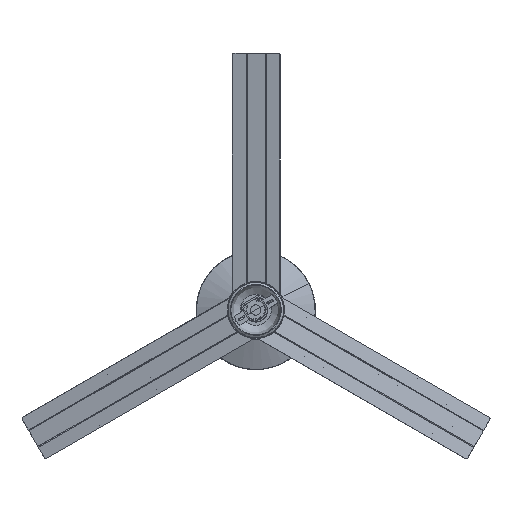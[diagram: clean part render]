
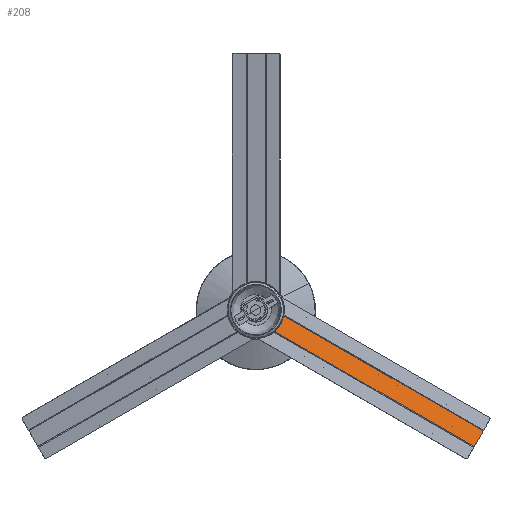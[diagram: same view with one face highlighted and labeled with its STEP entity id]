
A CAD part, top view. The second image highlights one B-rep face of the part: STEP entity #208.
In plain terms, the highlighted planar face has unit normal (0.113, 0.195, 0.974).
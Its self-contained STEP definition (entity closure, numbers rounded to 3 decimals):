
#99=FACE_BOUND('',#1970,.T.);
#208=ADVANCED_FACE('',(#1088,#99),#15163,.T.);
#1088=FACE_OUTER_BOUND('',#1969,.T.);
#1969=EDGE_LOOP('',(#3128,#3129,#3130,#3131));
#1970=EDGE_LOOP('',(#3132,#3133));
#3128=ORIENTED_EDGE('',*,*,#7876,.T.);
#3129=ORIENTED_EDGE('',*,*,#7877,.F.);
#3130=ORIENTED_EDGE('',*,*,#7892,.T.);
#3131=ORIENTED_EDGE('',*,*,#7878,.F.);
#3132=ORIENTED_EDGE('',*,*,#7831,.T.);
#3133=ORIENTED_EDGE('',*,*,#7833,.T.);
#7831=EDGE_CURVE('',#13310,#13309,#10228,.T.);
#7833=EDGE_CURVE('',#13309,#13310,#10229,.T.);
#7876=EDGE_CURVE('',#13254,#13239,#10235,.T.);
#7877=EDGE_CURVE('',#13237,#13239,#11549,.T.);
#7878=EDGE_CURVE('',#13254,#13259,#11550,.T.);
#7892=EDGE_CURVE('',#13237,#13259,#11562,.T.);
#10228=TRIMMED_CURVE($,#10754,(#19420),(#19421),.T.,.CARTESIAN.);
#10229=TRIMMED_CURVE($,#10755,(#19425),(#19426),.T.,.CARTESIAN.);
#10235=TRIMMED_CURVE($,#10761,(#19533),(#19534),.T.,.CARTESIAN.);
#10754=CIRCLE('',#15817,2.6);
#10755=CIRCLE('',#15818,2.6);
#10761=CIRCLE('',#15824,56.);
#11549=B_SPLINE_CURVE_WITH_KNOTS('',1,(#19535,#19536),.UNSPECIFIED.,.F.,
 .F.,(2,2),(-609.372,0.),.UNSPECIFIED.);
#11550=B_SPLINE_CURVE_WITH_KNOTS('',1,(#19537,#19538),.UNSPECIFIED.,.F.,
 .F.,(2,2),(-609.414,0.),.UNSPECIFIED.);
#11562=B_SPLINE_CURVE_WITH_KNOTS('',1,(#19567,#19568),.UNSPECIFIED.,.F.,
 .F.,(2,2),(-48.,0.),.UNSPECIFIED.);
#13237=VERTEX_POINT('',#19047);
#13239=VERTEX_POINT('',#19049);
#13254=VERTEX_POINT('',#19064);
#13259=VERTEX_POINT('',#19069);
#13309=VERTEX_POINT('',#19119);
#13310=VERTEX_POINT('',#19120);
#15163=PLANE('',#15797);
#15797=AXIS2_PLACEMENT_3D('',#19022,#17145,$);
#15817=AXIS2_PLACEMENT_3D($,#19419,#17173,#17174);
#15818=AXIS2_PLACEMENT_3D($,#19424,#17175,#17176);
#15824=AXIS2_PLACEMENT_3D($,#19532,#17187,#17188);
#17145=DIRECTION('',(0.112,0.195,0.974));
#17173=DIRECTION('',(-0.112,-0.195,-0.974));
#17174=DIRECTION('',(0.487,0.844,-0.225));
#17175=DIRECTION('',(-0.112,-0.195,-0.974));
#17176=DIRECTION('',(-0.487,-0.844,0.225));
#17187=DIRECTION('',(-0.112,-0.195,-0.974));
#17188=DIRECTION('',(0.991,-0.089,-0.097));
#19022=CARTESIAN_POINT('',(17262.869,-2090.762,72.907));
#19047=CARTESIAN_POINT('',(17212.397,-2056.06,71.795));
#19049=CARTESIAN_POINT('',(16684.665,-1751.374,71.795));
#19064=CARTESIAN_POINT('',(16708.014,-1710.849,60.998));
#19069=CARTESIAN_POINT('',(17235.782,-2015.556,60.998));
#19119=CARTESIAN_POINT('',(16709.258,-1741.544,66.991));
#19120=CARTESIAN_POINT('',(16711.791,-1737.156,65.821));
#19419=CARTESIAN_POINT('',(16710.524,-1739.35,66.406));
#19420=CARTESIAN_POINT('',(16711.791,-1737.156,65.821));
#19421=CARTESIAN_POINT('',(16709.258,-1741.544,66.991));
#19424=CARTESIAN_POINT('',(16710.524,-1739.35,66.406));
#19425=CARTESIAN_POINT('',(16709.258,-1741.544,66.991));
#19426=CARTESIAN_POINT('',(16711.791,-1737.156,65.821));
#19532=CARTESIAN_POINT('',(16652.501,-1705.85,66.406));
#19533=CARTESIAN_POINT('',(16708.014,-1710.849,60.998));
#19534=CARTESIAN_POINT('',(16684.665,-1751.374,71.795));
#19535=CARTESIAN_POINT('',(17212.397,-2056.06,71.795));
#19536=CARTESIAN_POINT('',(16684.665,-1751.374,71.795));
#19537=CARTESIAN_POINT('',(16708.014,-1710.849,60.998));
#19538=CARTESIAN_POINT('',(17235.782,-2015.556,60.998));
#19567=CARTESIAN_POINT('',(17212.397,-2056.06,71.795));
#19568=CARTESIAN_POINT('',(17235.782,-2015.556,60.998));
